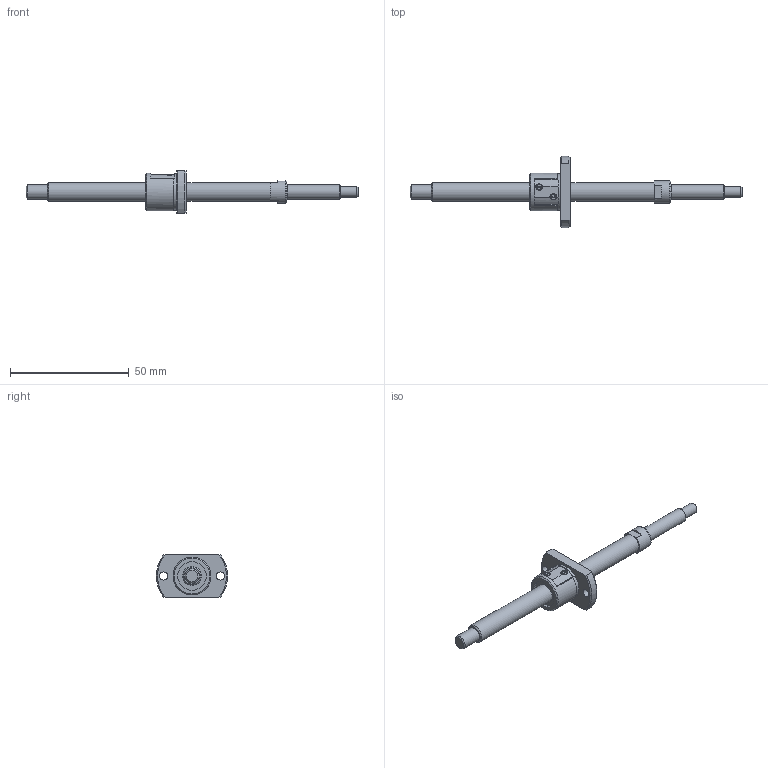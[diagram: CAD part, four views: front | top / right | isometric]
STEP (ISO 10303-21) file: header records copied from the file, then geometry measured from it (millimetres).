
FILE_DESCRIPTION(/* description */ ('STEP AP214'),/* implementation_level */ '2;1');
FILE_NAME(/* name */ 'SG0801-091R140C3C0X(41.5)',/* time_stamp */ '2026-07-21T16:37:34+02:00',/* author */ ('License CC BY-ND 4.0'),/* organization */ ('CADENAS'),/* preprocessor_version */ 'ST-DEVELOPER v20',/* originating_system */ 'PARTsolutions',/* authorisation */ ' ');
FILE_SCHEMA (('AUTOMOTIVE_DESIGN {1 0 10303 214 3 1 1}'));
Length unit declared in the file: millimetre
Products named in the file (3): SG0801-091R140C3C0X(41.5); SG0801-91R140C3C_shaft; SG0801_nut
Assembly tree (2 placements, depth 2):
  SG0801-091R140C3C0X(41.5)
    SG0801-91R140C3C_shaft
    SG0801_nut
Bounding box: 140 x 30 x 18 mm (x, y, z)
Volume: 9696.4 mm3; surface area: 5798.6 mm2
Topology: 2 solids, 2 shells, 77 faces, 187 edges, 122 vertices
Faces by surface type: plane 36, cylinder 26, cone 14, torus 1
Full cylindrical faces by diameter (mm): 3.4 x2, 4.5 x1, 6 x2, 8 x2, 9.5 x1, 12 x2, 15.6 x1, 16 x1
Entity records: 2183 total; most frequent: CARTESIAN_POINT 414, DIRECTION 366, ORIENTED_EDGE 310, EDGE_CURVE 155, AXIS2_PLACEMENT_3D 153, EDGE_LOOP 114, FACE_BOUND 114, VERTEX_POINT 113
